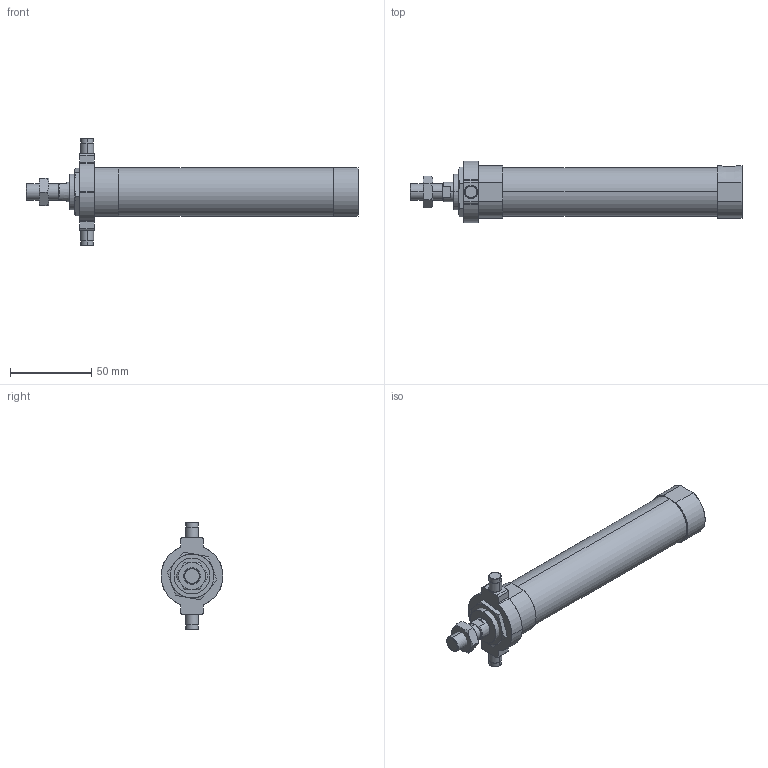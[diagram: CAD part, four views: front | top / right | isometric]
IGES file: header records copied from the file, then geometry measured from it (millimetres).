
Start section: SolidWorks IGES file using analytic representation for surfaces
Global section: file name: C:\Users\Toshiba\Desktop\JGND1-25-50-T.IGS; native system: SolidWorks 2014; preprocessor: SolidWorks 2014; author: Toshiba; date: 160804.101919; units: millimetre
Bounding box: 204 x 38 x 66 mm (x, y, z)
Surface area: 25741.9 mm2 (no closed solid volume)
Topology: 0 solids, 0 shells, 124 faces, 2014 edges, 2012 vertices
Faces by surface type: bspline 69, revolution 55
